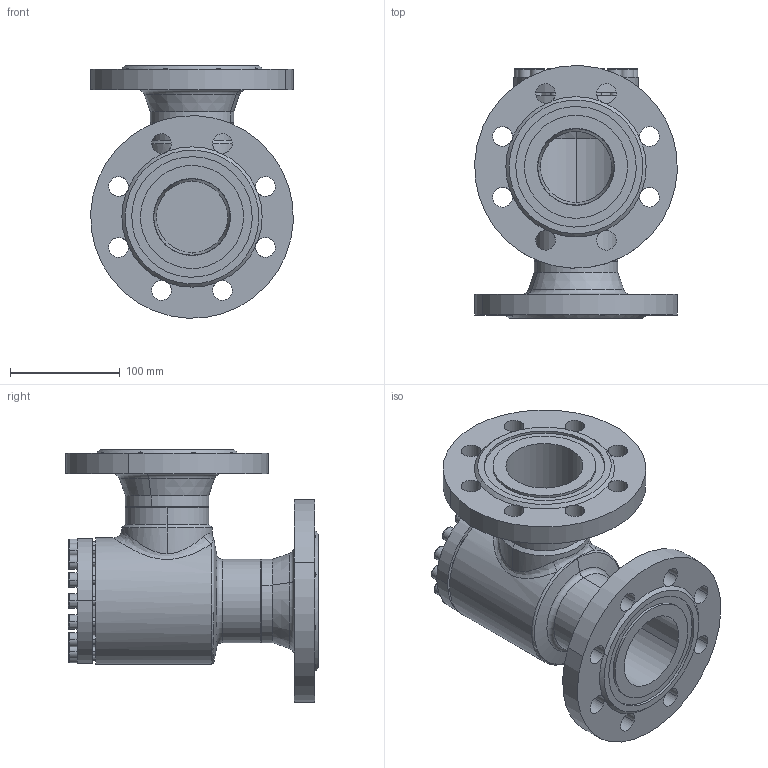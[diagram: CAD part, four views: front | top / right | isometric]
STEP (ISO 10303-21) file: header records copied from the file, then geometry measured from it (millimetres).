
FILE_DESCRIPTION (( 'STEP AP214' ), '1' );
FILE_NAME ('SS52420D17-DN065_DIN-FL-N_PS40.STEP', '2006-05-02T05:55:23', ( 'Herr Grams' ), ( 'AWP GmbH' ), 'SwSTEP 2.0', 'SolidWorks 2002296', '' );
FILE_SCHEMA (( 'AUTOMOTIVE_DESIGN' ));
Length unit declared in the file: millimetre
Products named in the file (9): SS52420D17-DN065_DIN-FL-N_PS40; Gehäuse-kpl16420-DN065_DIN_PS40_Standard; Gehäuse16400-DN065_Standard; Flansch-DIN-Nut_PS40_DIN-Flansch-DN065_PS40-Nut; bead-DN065-4_Standard; bead-DN065-3_Standard; SS52300K17_Deck+Schr-DN65_Standard; Deckel52300K17-DN65_Standard; Zylinderschraube-DIN912_M 8x 25
Assembly tree (24 placements, depth 3):
  SS52420D17-DN065_DIN-FL-N_PS40
    SS52300K17_Deck+Schr-DN65_Standard
      Zylinderschraube-DIN912_M 8x 25  x16
      Deckel52300K17-DN65_Standard
    Gehäuse-kpl16420-DN065_DIN_PS40_Standard
      bead-DN065-3_Standard
      bead-DN065-4_Standard
      Flansch-DIN-Nut_PS40_DIN-Flansch-DN065_PS40-Nut  x2
      Gehäuse16400-DN065_Standard
Bounding box: 184.82 x 230.41 x 230.41 mm (x, y, z)
Volume: 1555543.4 mm3; surface area: 333738 mm2
Topology: 22 solids, 22 shells, 458 faces, 1066 edges, 679 vertices
Faces by surface type: plane 186, cylinder 172, cone 50, torus 40, bspline 10
Entity records: 16389 total; most frequent: CARTESIAN_POINT 11965, DIRECTION 884, ORIENTED_EDGE 764, EDGE_CURVE 382, AXIS2_PLACEMENT_3D 381, VERTEX_POINT 245, CIRCLE 212, EDGE_LOOP 209
